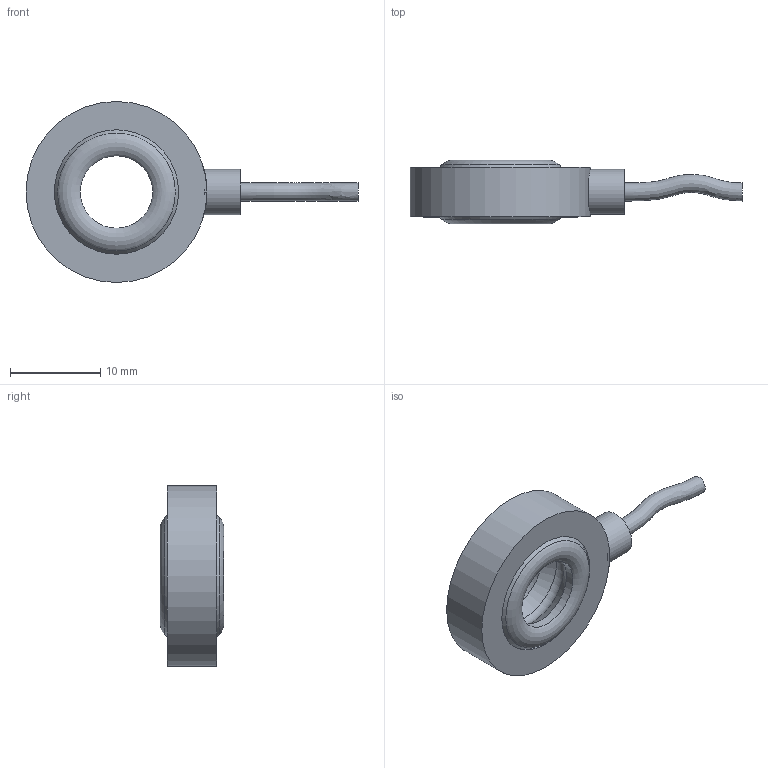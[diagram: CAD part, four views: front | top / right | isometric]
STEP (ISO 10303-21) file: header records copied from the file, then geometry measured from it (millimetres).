
FILE_DESCRIPTION(/* description */ ('Alibre Inc.'),/* implementation_level */ '2;1');
FILE_NAME(/* name */ 'export-5D0E132E-8827-4CF3-845D-278DD2725A9E',/* time_stamp */ '2019-05-16T09:09:10+02:00',/* author */ (''),/* organization */ (''),/* preprocessor_version */ 'ST-DEVELOPER v17',/* originating_system */ 'Alibre',/* authorisation */ '');
FILE_SCHEMA (('CONFIG_CONTROL_DESIGN'));
Length unit declared in the file: centimetre
Products named in the file (7): ID_1; ID_2; ID_3; ID_4
Bounding box: 36.7 x 7.05 x 20 mm (x, y, z)
Volume: 1989.3 mm3; surface area: 2873.9 mm2
Topology: 6 solids, 6 shells, 49 faces, 94 edges, 55 vertices
Faces by surface type: cylinder 20, plane 12, cone 10, torus 6, bspline 1
Full cylindrical faces by diameter (mm): 2.2 x1, 3.4 x1, 3.5 x1, 5 x1, 8 x4, 13.75 x1, 14.5 x1, 16 x2, 18 x1, 18.9 x1, 19 x1, 20 x1
Entity records: 1776 total; most frequent: CARTESIAN_POINT 361, DIRECTION 155, ORIENTED_EDGE 98, AXIS2_PLACEMENT_3D 83, EDGE_LOOP 71, FACE_BOUND 71, PERSON_AND_ORGANIZATION 70, COORDINATED_UNIVERSAL_TIME_OFFSET 49
